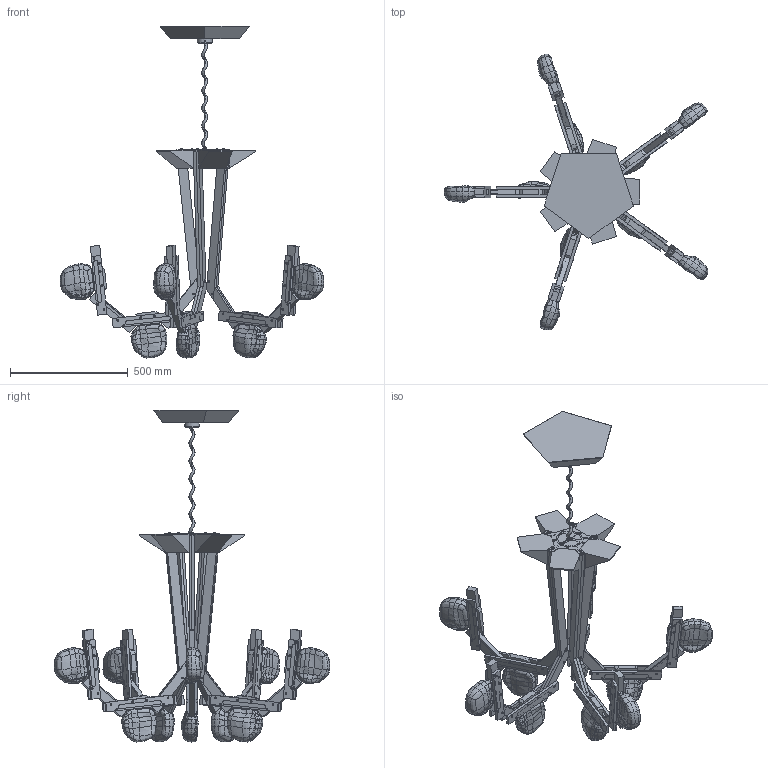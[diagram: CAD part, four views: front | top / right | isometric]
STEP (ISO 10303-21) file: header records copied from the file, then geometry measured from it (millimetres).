
FILE_DESCRIPTION(/* description */ (''),/* implementation_level */ '2;1');
FILE_NAME(/* name */ 'D:\Users\boris.ha\Desktop\Collections\Fungo\Fungo S\Fungo S.stp',/* time_stamp */ '2017-11-14T11:58:02+01:00',/* author */ ('boris.ha'),/* organization */ (''),/* preprocessor_version */ 'ST-DEVELOPER v16.13',/* originating_system */ 'Autodesk Inventor 2018',/* authorisation */ '');
FILE_SCHEMA (('AUTOMOTIVE_DESIGN { 1 0 10303 214 3 1 1 }'));
Products named in the file (1): Fungo S
Bounding box: 1117.48 x 1169.81 x 1407.35 mm (x, y, z)
Volume: 26249232.7 mm3; surface area: 3348402.6 mm2
Topology: 176 solids, 176 shells, 3292 faces, 7487 edges, 4567 vertices
Faces by surface type: plane 1282, bspline 969, cylinder 784, cone 200, torus 57
Full cylindrical faces by diameter (mm): 3.5 x6, 4 x16, 4.4 x6, 5 x5, 5.5 x5, 6 x8, 7.6 x6, 8 x265, 8.917 x1, 10 x20, 10.5 x6, 30 x1, 35 x1, 63 x1, 100 x1
Entity records: 122825 total; most frequent: CARTESIAN_POINT 53736, ORIENTED_EDGE 13790, DIRECTION 11203, EDGE_CURVE 6895, VERTEX_POINT 4542, EDGE_LOOP 4389, AXIS2_PLACEMENT_3D 4141, STYLED_ITEM 3468
